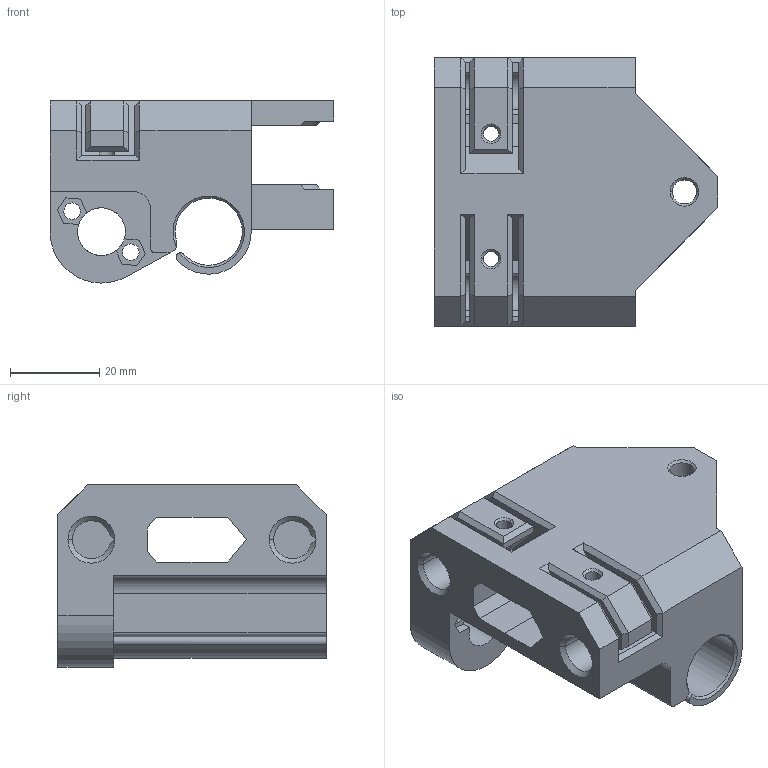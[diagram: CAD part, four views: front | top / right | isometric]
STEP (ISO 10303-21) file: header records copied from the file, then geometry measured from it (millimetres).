
FILE_DESCRIPTION(('CATIA V5 STEP Exchange'),'2;1');
FILE_NAME('D:\_이전 노트북\Cremaker모델링\Cremaker_profile-Metal(5차)-(Final)\X-block-R.stp','2020-10-23T05:17:59+00:00',('none'),('none'),'CATIA Version 5 Release 20 GA (IN-10)','CATIA V5 STEP AP203','none');
FILE_SCHEMA(('CONFIG_CONTROL_DESIGN'));
Length unit declared in the file: millimetre
Products named in the file (1): X-block-R
Bounding box: 63.5 x 60 x 40.75 mm (x, y, z)
Volume: 60905.2 mm3; surface area: 23082.3 mm2
Topology: 1 solids, 1 shells, 198 faces, 555 edges, 359 vertices
Faces by surface type: plane 140, cylinder 31, cone 27
Entity records: 6175 total; most frequent: CARTESIAN_POINT 1345, ORIENTED_EDGE 1110, DIRECTION 780, EDGE_CURVE 555, VECTOR 397, LINE 397, VERTEX_POINT 359, AXIS2_PLACEMENT_3D 244
